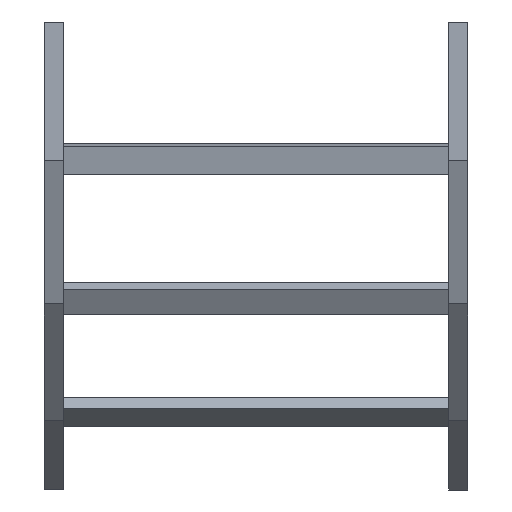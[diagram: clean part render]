
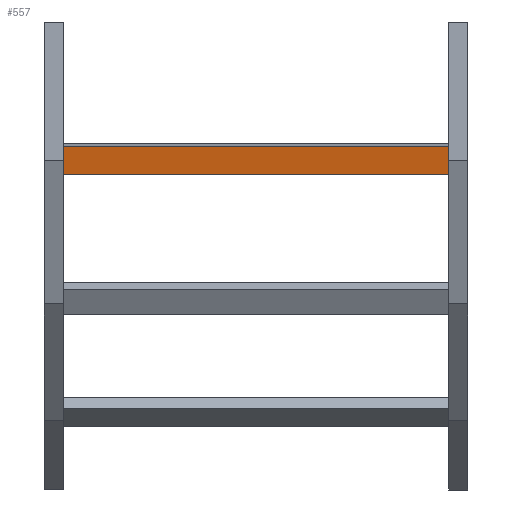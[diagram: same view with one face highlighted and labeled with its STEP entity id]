
A CAD part, front view. The second image highlights one B-rep face of the part: STEP entity #557.
In plain terms, the highlighted planar face has unit normal (0, -0.985, -0.174) as drawn and (0, -1, 0) by its records, which use the part's own axes.
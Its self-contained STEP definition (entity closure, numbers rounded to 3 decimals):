
#99 = CARTESIAN_POINT ( 'NONE',  ( -298., 0., 20.25 ) ) ;
#144 = CARTESIAN_POINT ( 'NONE',  ( -298., 0., 20.25 ) ) ;
#163 = DIRECTION ( 'NONE',  ( 0., 1., 0. ) ) ;
#189 = CARTESIAN_POINT ( 'NONE',  ( -298., 0., -20.25 ) ) ;
#194 = CARTESIAN_POINT ( 'NONE',  ( 298., 0., 20.25 ) ) ;
#216 = LINE ( 'NONE', #723, #1597 ) ;
#291 = DIRECTION ( 'NONE',  ( 0., 0., -1. ) ) ;
#404 = VERTEX_POINT ( 'NONE', #99 ) ;
#442 = FACE_OUTER_BOUND ( 'NONE', #746, .T. ) ;
#454 = LINE ( 'NONE', #144, #1139 ) ;
#494 = EDGE_CURVE ( 'NONE', #1691, #660, #1484, .T. ) ;
#557 = ADVANCED_FACE ( 'NONE', ( #442 ), #964, .F. ) ;
#592 = DIRECTION ( 'NONE',  ( -1., 0., 0. ) ) ;
#651 = ORIENTED_EDGE ( 'NONE', *, *, #494, .F. ) ;
#660 = VERTEX_POINT ( 'NONE', #1151 ) ;
#696 = ORIENTED_EDGE ( 'NONE', *, *, #922, .T. ) ;
#707 = CARTESIAN_POINT ( 'NONE',  ( 298., 0., 20.25 ) ) ;
#723 = CARTESIAN_POINT ( 'NONE',  ( 298., 0., -20.25 ) ) ;
#746 = EDGE_LOOP ( 'NONE', ( #696, #1062, #651, #949 ) ) ;
#922 = EDGE_CURVE ( 'NONE', #404, #1492, #454, .T. ) ;
#949 = ORIENTED_EDGE ( 'NONE', *, *, #1572, .T. ) ;
#964 = PLANE ( 'NONE',  #1354 ) ;
#1062 = ORIENTED_EDGE ( 'NONE', *, *, #1505, .F. ) ;
#1139 = VECTOR ( 'NONE', #291, 1000. ) ;
#1151 = CARTESIAN_POINT ( 'NONE',  ( 298., 0., -20.25 ) ) ;
#1174 = DIRECTION ( 'NONE',  ( -1., 0., 0. ) ) ;
#1219 = CARTESIAN_POINT ( 'NONE',  ( 298., 0., 20.25 ) ) ;
#1354 = AXIS2_PLACEMENT_3D ( 'NONE', #707, #163, #1496 ) ;
#1420 = CARTESIAN_POINT ( 'NONE',  ( 298., 0., 20.25 ) ) ;
#1484 = LINE ( 'NONE', #1219, #1518 ) ;
#1492 = VERTEX_POINT ( 'NONE', #189 ) ;
#1494 = VECTOR ( 'NONE', #1174, 1000. ) ;
#1496 = DIRECTION ( 'NONE',  ( 0., 0., 1. ) ) ;
#1505 = EDGE_CURVE ( 'NONE', #660, #1492, #216, .T. ) ;
#1518 = VECTOR ( 'NONE', #1593, 1000. ) ;
#1572 = EDGE_CURVE ( 'NONE', #1691, #404, #1662, .T. ) ;
#1593 = DIRECTION ( 'NONE',  ( 0., 0., -1. ) ) ;
#1597 = VECTOR ( 'NONE', #592, 1000. ) ;
#1662 = LINE ( 'NONE', #1420, #1494 ) ;
#1691 = VERTEX_POINT ( 'NONE', #194 ) ;
